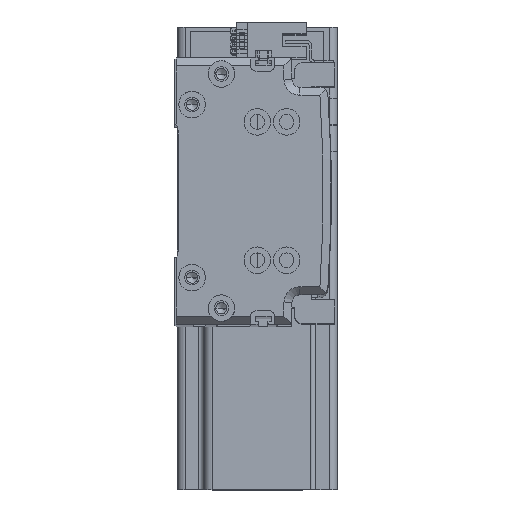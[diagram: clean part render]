
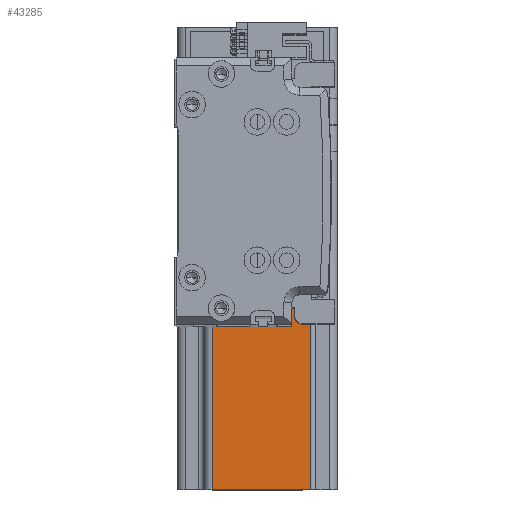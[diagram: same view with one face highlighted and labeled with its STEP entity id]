
A CAD part, top view. The second image highlights one B-rep face of the part: STEP entity #43285.
In plain terms, the highlighted planar face has unit normal (0, 0, 1) as drawn and (-1, 0, 0) by its records, which use the part's own axes.
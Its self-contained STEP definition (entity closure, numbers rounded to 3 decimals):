
#140 = FACE_OUTER_BOUND ( 'NONE', #10431, .T. ) ;
#239 = CARTESIAN_POINT ( 'NONE',  ( -30., 27., 10. ) ) ;
#1608 = CARTESIAN_POINT ( 'NONE',  ( -30., -30., 137. ) ) ;
#1609 = EDGE_CURVE ( 'NONE', #27833, #24164, #21400, .T. ) ;
#1721 = PLANE ( 'NONE',  #33616 ) ;
#2479 = CARTESIAN_POINT ( 'NONE',  ( -30., -30., 10. ) ) ;
#2836 = DIRECTION ( 'NONE',  ( 0., 0., 1. ) ) ;
#3363 = VECTOR ( 'NONE', #40423, 1000. ) ;
#4077 = CARTESIAN_POINT ( 'NONE',  ( -30., -27., 10. ) ) ;
#4308 = EDGE_CURVE ( 'NONE', #38346, #43681, #25073, .T. ) ;
#4819 = ORIENTED_EDGE ( 'NONE', *, *, #30364, .T. ) ;
#5165 = CARTESIAN_POINT ( 'NONE',  ( -30., 30., 10. ) ) ;
#6560 = CARTESIAN_POINT ( 'NONE',  ( -30., 20., 10. ) ) ;
#7951 = VERTEX_POINT ( 'NONE', #239 ) ;
#8444 = LINE ( 'NONE', #6560, #36323 ) ;
#10415 = CARTESIAN_POINT ( 'NONE',  ( -30., 27., 137. ) ) ;
#10431 = EDGE_LOOP ( 'NONE', ( #11360, #38712, #30673, #43711, #30243, #4819, #14211, #15753 ) ) ;
#10622 = VECTOR ( 'NONE', #13316, 1000. ) ;
#10738 = EDGE_CURVE ( 'NONE', #24386, #40199, #31523, .T. ) ;
#11360 = ORIENTED_EDGE ( 'NONE', *, *, #4308, .F. ) ;
#12167 = VECTOR ( 'NONE', #34273, 1000. ) ;
#13316 = DIRECTION ( 'NONE',  ( 0., -1., 0. ) ) ;
#14211 = ORIENTED_EDGE ( 'NONE', *, *, #1609, .T. ) ;
#14812 = CARTESIAN_POINT ( 'NONE',  ( -30., 20., 10. ) ) ;
#14970 = CARTESIAN_POINT ( 'NONE',  ( -30., -17., 137. ) ) ;
#15753 = ORIENTED_EDGE ( 'NONE', *, *, #33440, .T. ) ;
#16379 = CARTESIAN_POINT ( 'NONE',  ( -30., -30., 137. ) ) ;
#16901 = CARTESIAN_POINT ( 'NONE',  ( -30., -17., 10. ) ) ;
#17942 = CARTESIAN_POINT ( 'NONE',  ( -30., -27., 0. ) ) ;
#19800 = VECTOR ( 'NONE', #43143, 1000. ) ;
#20021 = DIRECTION ( 'NONE',  ( 0., 0., -1. ) ) ;
#21400 = LINE ( 'NONE', #35145, #10622 ) ;
#22413 = LINE ( 'NONE', #5165, #34433 ) ;
#24164 = VERTEX_POINT ( 'NONE', #17942 ) ;
#24386 = VERTEX_POINT ( 'NONE', #26531 ) ;
#25073 = LINE ( 'NONE', #2479, #43278 ) ;
#26531 = CARTESIAN_POINT ( 'NONE',  ( -30., 20., 137. ) ) ;
#27833 = VERTEX_POINT ( 'NONE', #40444 ) ;
#28136 = DIRECTION ( 'NONE',  ( 0., -1., 0. ) ) ;
#29526 = LINE ( 'NONE', #10415, #19800 ) ;
#30243 = ORIENTED_EDGE ( 'NONE', *, *, #33963, .T. ) ;
#30364 = EDGE_CURVE ( 'NONE', #7951, #27833, #29526, .T. ) ;
#30632 = DIRECTION ( 'NONE',  ( 0., 1., 0. ) ) ;
#30673 = ORIENTED_EDGE ( 'NONE', *, *, #10738, .F. ) ;
#31523 = LINE ( 'NONE', #1608, #12167 ) ;
#32404 = LINE ( 'NONE', #14970, #3363 ) ;
#32688 = EDGE_CURVE ( 'NONE', #34437, #24386, #8444, .T. ) ;
#33440 = EDGE_CURVE ( 'NONE', #24164, #43681, #45303, .T. ) ;
#33486 = DIRECTION ( 'NONE',  ( 0., 0., 1. ) ) ;
#33616 = AXIS2_PLACEMENT_3D ( 'NONE', #16379, #41794, #20021 ) ;
#33963 = EDGE_CURVE ( 'NONE', #34437, #7951, #22413, .T. ) ;
#34273 = DIRECTION ( 'NONE',  ( 0., -1., 0. ) ) ;
#34433 = VECTOR ( 'NONE', #30632, 1000. ) ;
#34437 = VERTEX_POINT ( 'NONE', #14812 ) ;
#35145 = CARTESIAN_POINT ( 'NONE',  ( -30., -30., 0. ) ) ;
#35652 = VECTOR ( 'NONE', #33486, 1000. ) ;
#36323 = VECTOR ( 'NONE', #2836, 1000. ) ;
#36929 = EDGE_CURVE ( 'NONE', #38346, #40199, #32404, .T. ) ;
#36967 = CARTESIAN_POINT ( 'NONE',  ( -30., -27., 137. ) ) ;
#38346 = VERTEX_POINT ( 'NONE', #16901 ) ;
#38712 = ORIENTED_EDGE ( 'NONE', *, *, #36929, .T. ) ;
#40199 = VERTEX_POINT ( 'NONE', #43399 ) ;
#40423 = DIRECTION ( 'NONE',  ( 0., 0., 1. ) ) ;
#40444 = CARTESIAN_POINT ( 'NONE',  ( -30., 27., 0. ) ) ;
#41794 = DIRECTION ( 'NONE',  ( 1., 0., 0. ) ) ;
#43143 = DIRECTION ( 'NONE',  ( 0., 0., -1. ) ) ;
#43278 = VECTOR ( 'NONE', #28136, 1000. ) ;
#43285 = ADVANCED_FACE ( 'NONE', ( #140 ), #1721, .F. ) ;
#43399 = CARTESIAN_POINT ( 'NONE',  ( -30., -17., 137. ) ) ;
#43681 = VERTEX_POINT ( 'NONE', #4077 ) ;
#43711 = ORIENTED_EDGE ( 'NONE', *, *, #32688, .F. ) ;
#45303 = LINE ( 'NONE', #36967, #35652 ) ;
